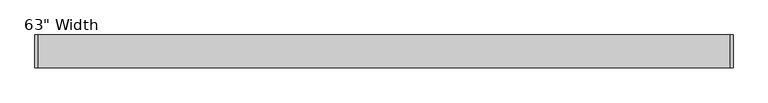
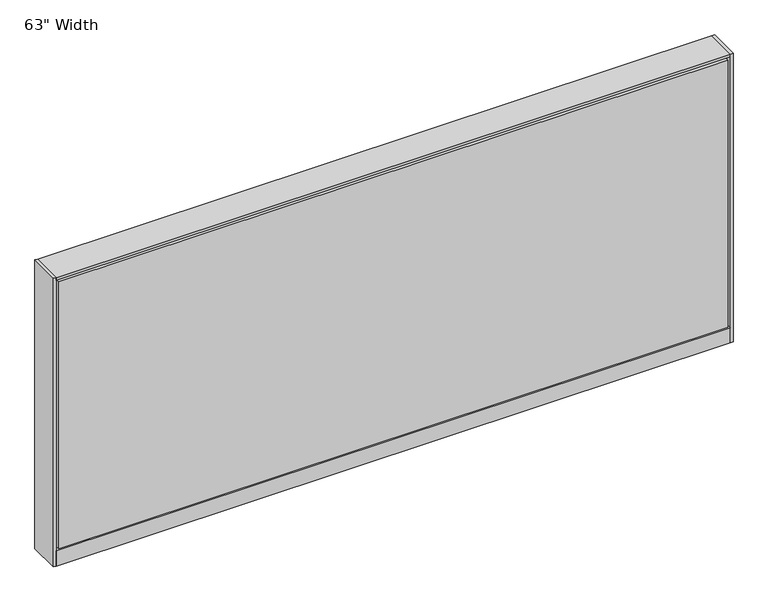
"""IFC4 building model written with IfcOpenShell, lengths in millimetres: furniture geometry."""

from ifc_helpers import new_model, si_unit, point, frame, frame_2d, origin, origin_with_axes, place, context, project, spatial, polyline, circle_curve, trimmed, segment, composite_curve, outline, extrude, source, transform, mapped, element, save


def furniture_301a0b17(model_context):
    return source(origin(), model_context, "Body", "SweptSolid", [
        extrude(outline(composite_curve([segment(trimmed(circle_curve(frame_2d((726.3402902, 0.0)), 12.7), [point((713.6402902, 0.0))], [point((739.0402902, 0.0))], False, "CARTESIAN"), True, "CONTINUOUS"), segment(trimmed(circle_curve(frame_2d((726.3402902, 0.0)), 12.7), [point((739.0402902, 0.0))], [point((713.6402902, 0.0))], False, "CARTESIAN"), True, "CONTINUOUS")], self_intersect=False)), origin_with_axes(), (0.0, 0.0, 1.0), 12.7),
        extrude(outline(composite_curve([segment(trimmed(circle_curve(frame_2d((-721.4597098, 0.0)), 12.7), [point((-734.1597098, 0.0))], [point((-708.7597098, 0.0))], False, "CARTESIAN"), True, "CONTINUOUS"), segment(trimmed(circle_curve(frame_2d((-721.4597098, 0.0)), 12.7), [point((-708.7597098, 0.0))], [point((-734.1597098, 0.0))], False, "CARTESIAN"), True, "CONTINUOUS")], self_intersect=False)), origin_with_axes(), (0.0, 0.0, 1.0), 12.7),
        extrude(outline(polyline([(-804.0097098, -38.1), (-804.0097098, 38.1), (-797.6597098, 38.1), (-797.6597098, -38.1), (-804.0097098, -38.1)])), frame((0.0, 0.0, 12.7), z_axis=(0.0, 0.0, 1.0), x_axis=(1.0, 0.0, 0.0)), (0.0, 0.0, 1.0), 723.9),
        extrude(outline(polyline([(808.8902902, 38.1), (808.8902902, -38.1), (802.5402902, -38.1), (802.5402902, 38.1), (808.8902902, 38.1)])), frame((0.0, 0.0, 12.7), z_axis=(0.0, 0.0, 1.0), x_axis=(1.0, 0.0, 0.0)), (0.0, 0.0, 1.0), 723.9),
        extrude(outline(polyline([(796.1902902, 38.1), (796.1902902, 25.4), (-791.3097098, 25.4), (-791.3097098, 38.1), (796.1902902, 38.1)])), frame((0.0, 0.0, 53.975), z_axis=(0.0, 0.0, 1.0), x_axis=(1.0, 0.0, 0.0)), (0.0, 0.0, 1.0), 669.925),
        extrude(outline(polyline([(796.1902902, -38.1), (-791.3097098, -38.1), (-791.3097098, -25.4), (796.1902902, -25.4), (796.1902902, -38.1)])), frame((0.0, 0.0, 53.975), z_axis=(0.0, 0.0, 1.0), x_axis=(1.0, 0.0, 0.0)), (0.0, 0.0, 1.0), 669.925),
        extrude(outline(polyline([(802.5402902, 25.4), (802.5402902, -25.4), (-797.6597098, -25.4), (-797.6597098, 25.4), (802.5402902, 25.4)])), frame((0.0, 0.0, 12.7), z_axis=(0.0, 0.0, 1.0), x_axis=(1.0, 0.0, 0.0)), (0.0, 0.0, 1.0), 717.55),
        extrude(outline(polyline([(-797.6597098, -38.1), (-797.6597098, 38.1), (802.5402902, 38.1), (802.5402902, -38.1), (-797.6597098, -38.1)])), frame((0.0, 0.0, 12.7), z_axis=(0.0, 0.0, 1.0), x_axis=(1.0, 0.0, 0.0)), (0.0, 0.0, 1.0), 38.1),
        extrude(outline(polyline([(-797.6597098, -38.1), (-797.6597098, 38.1), (802.5402902, 38.1), (802.5402902, -38.1), (-797.6597098, -38.1)])), frame((0.0, 0.0, 730.25), z_axis=(0.0, 0.0, 1.0), x_axis=(1.0, 0.0, 0.0)), (0.0, 0.0, 1.0), 6.35),
    ])


if __name__ == "__main__":
    model = new_model("IFC4")
    model_context = context("Model", 3, world=origin())
    ifc_project = project(units=[si_unit("LENGTHUNIT", "METRE", prefix="MILLI")], contexts=[model_context])
    site = spatial("IfcSite", under=ifc_project)
    building = spatial("IfcBuilding", under=site)
    placement = place(None, origin())
    furniture_shape = furniture_301a0b17(model_context)
    element("IfcFurniture", 1, ObjectType="Haworth_Compose-Panel-Benching : 63\" Width", at=placement, inside=building, context=model_context, shape_type="MappedRepresentation", body=[
        mapped(furniture_shape, transform((0.0, 0.0, 0.0), x_axis=(1.0, 0.0, 0.0), y_axis=(0.0, 1.0, 0.0), z_axis=(0.0, 0.0, 1.0))),
    ])
    save(model, "model.ifc")
